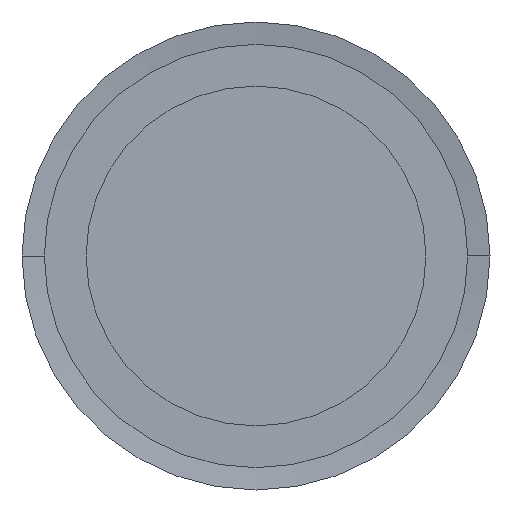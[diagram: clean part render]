
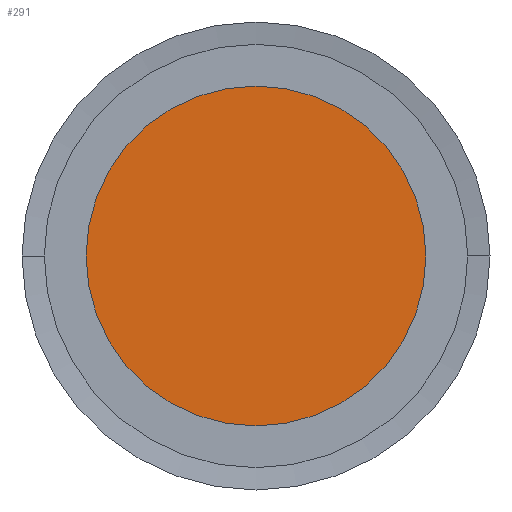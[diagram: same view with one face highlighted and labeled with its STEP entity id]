
A CAD part, left-side view. The second image highlights one B-rep face of the part: STEP entity #291.
In plain terms, the highlighted planar face has unit normal (-1, 0, 0).
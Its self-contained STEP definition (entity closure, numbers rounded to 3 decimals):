
#291 = ADVANCED_FACE( '', ( #730 ), #731, .T. );
#730 = FACE_OUTER_BOUND( '', #1169, .T. );
#731 = PLANE( '', #1170 );
#1169 = EDGE_LOOP( '', ( #3061, #3062 ) );
#1170 = AXIS2_PLACEMENT_3D( '', #3063, #3064, #3065 );
#3061 = ORIENTED_EDGE( '', *, *, #3069, .T. );
#3062 = ORIENTED_EDGE( '', *, *, #3687, .T. );
#3063 = CARTESIAN_POINT( '', ( 0., 7.625, 0. ) );
#3064 = DIRECTION( '', ( -1., 0., 0. ) );
#3065 = DIRECTION( '', ( 0., 1., 0. ) );
#3069 = EDGE_CURVE( '', #3689, #3693, #3695, .T. );
#3687 = EDGE_CURVE( '', #3693, #3689, #4721, .T. );
#3689 = VERTEX_POINT( '', #4723 );
#3693 = VERTEX_POINT( '', #4728 );
#3695 = CIRCLE( '', #4731, 15.25 );
#4721 = CIRCLE( '', #6109, 15.25 );
#4723 = CARTESIAN_POINT( '', ( 0., 15.25, 0. ) );
#4728 = CARTESIAN_POINT( '', ( 0., -15.25, 0. ) );
#4731 = AXIS2_PLACEMENT_3D( '', #6115, #6116, #6117 );
#6109 = AXIS2_PLACEMENT_3D( '', #7265, #7266, #7267 );
#6115 = CARTESIAN_POINT( '', ( 0., 0., 0. ) );
#6116 = DIRECTION( '', ( -1., 0., 0. ) );
#6117 = DIRECTION( '', ( 0., 1., 0. ) );
#7265 = CARTESIAN_POINT( '', ( 0., 0., 0. ) );
#7266 = DIRECTION( '', ( -1., 0., 0. ) );
#7267 = DIRECTION( '', ( 0., 1., 0. ) );
